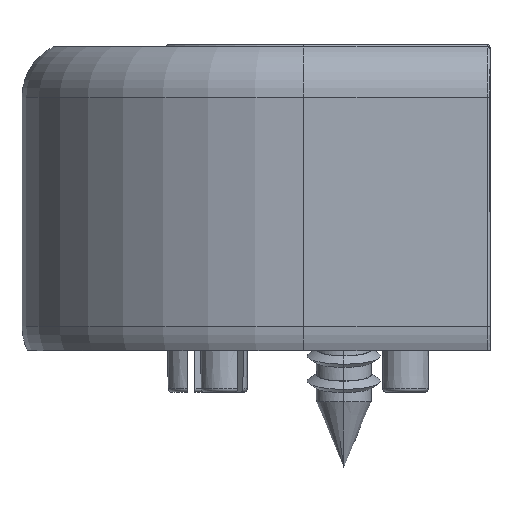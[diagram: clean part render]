
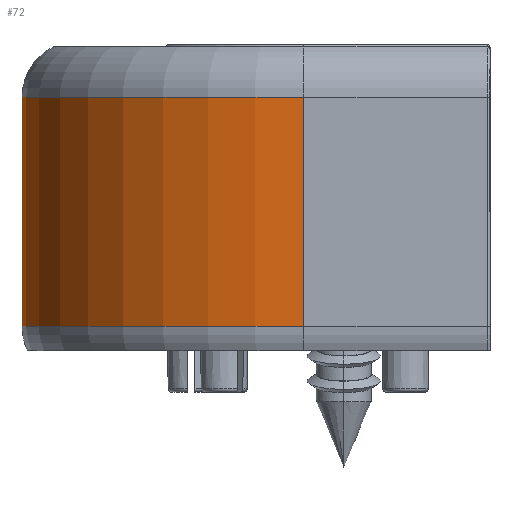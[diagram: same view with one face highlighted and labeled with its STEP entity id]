
A CAD part, front view. The second image highlights one B-rep face of the part: STEP entity #72.
In plain terms, the highlighted cylindrical face has radius 15 mm (diameter 30 mm), a partial arc.
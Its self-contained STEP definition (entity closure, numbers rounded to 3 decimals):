
#72 = ADVANCED_FACE ( 'NONE', ( #4008 ), #7209, .T. ) ;
#133 = CIRCLE ( 'NONE', #11485, 15. ) ;
#176 = DIRECTION ( 'NONE',  ( 0., 1., 0. ) ) ;
#453 = EDGE_CURVE ( 'NONE', #7293, #8706, #1211, .T. ) ;
#483 = DIRECTION ( 'NONE',  ( 0., 0., -1. ) ) ;
#1211 = LINE ( 'NONE', #9798, #5920 ) ;
#1459 = DIRECTION ( 'NONE',  ( 0., 1., 0. ) ) ;
#2518 = ORIENTED_EDGE ( 'NONE', *, *, #453, .F. ) ;
#2524 = CARTESIAN_POINT ( 'NONE',  ( 2.5, -1.25, -11. ) ) ;
#3591 = CARTESIAN_POINT ( 'NONE',  ( -12.5, -1.25, -11. ) ) ;
#4008 = FACE_OUTER_BOUND ( 'NONE', #11450, .T. ) ;
#4051 = EDGE_CURVE ( 'NONE', #8706, #7787, #8319, .T. ) ;
#4497 = EDGE_CURVE ( 'NONE', #7293, #6228, #133, .T. ) ;
#4751 = DIRECTION ( 'NONE',  ( 0., 1., 0. ) ) ;
#5662 = CARTESIAN_POINT ( 'NONE',  ( 2.5, 10.94, -11. ) ) ;
#5718 = AXIS2_PLACEMENT_3D ( 'NONE', #5662, #4751, #10333 ) ;
#5745 = CARTESIAN_POINT ( 'NONE',  ( -12.5, -2.94, -11. ) ) ;
#5920 = VECTOR ( 'NONE', #9667, 1000. ) ;
#6228 = VERTEX_POINT ( 'NONE', #3591 ) ;
#7161 = DIRECTION ( 'NONE',  ( 0., 0., 1. ) ) ;
#7172 = ORIENTED_EDGE ( 'NONE', *, *, #9827, .T. ) ;
#7209 = CYLINDRICAL_SURFACE ( 'NONE', #10665, 15. ) ;
#7293 = VERTEX_POINT ( 'NONE', #9327 ) ;
#7386 = ORIENTED_EDGE ( 'NONE', *, *, #4497, .T. ) ;
#7787 = VERTEX_POINT ( 'NONE', #8256 ) ;
#8256 = CARTESIAN_POINT ( 'NONE',  ( -12.5, 10.94, -11. ) ) ;
#8319 = CIRCLE ( 'NONE', #5718, 15. ) ;
#8405 = LINE ( 'NONE', #5745, #8552 ) ;
#8552 = VECTOR ( 'NONE', #176, 1000. ) ;
#8706 = VERTEX_POINT ( 'NONE', #9490 ) ;
#9327 = CARTESIAN_POINT ( 'NONE',  ( 2.5, -1.25, -26. ) ) ;
#9377 = ORIENTED_EDGE ( 'NONE', *, *, #4051, .F. ) ;
#9490 = CARTESIAN_POINT ( 'NONE',  ( 2.5, 10.94, -26. ) ) ;
#9667 = DIRECTION ( 'NONE',  ( 0., 1., 0. ) ) ;
#9768 = CARTESIAN_POINT ( 'NONE',  ( 2.5, 0.7, -11. ) ) ;
#9798 = CARTESIAN_POINT ( 'NONE',  ( 2.5, -2.94, -26. ) ) ;
#9827 = EDGE_CURVE ( 'NONE', #6228, #7787, #8405, .T. ) ;
#10333 = DIRECTION ( 'NONE',  ( 0., 0., -1. ) ) ;
#10575 = DIRECTION ( 'NONE',  ( 0., 1., 0. ) ) ;
#10665 = AXIS2_PLACEMENT_3D ( 'NONE', #9768, #10575, #7161 ) ;
#11450 = EDGE_LOOP ( 'NONE', ( #9377, #2518, #7386, #7172 ) ) ;
#11485 = AXIS2_PLACEMENT_3D ( 'NONE', #2524, #1459, #483 ) ;
